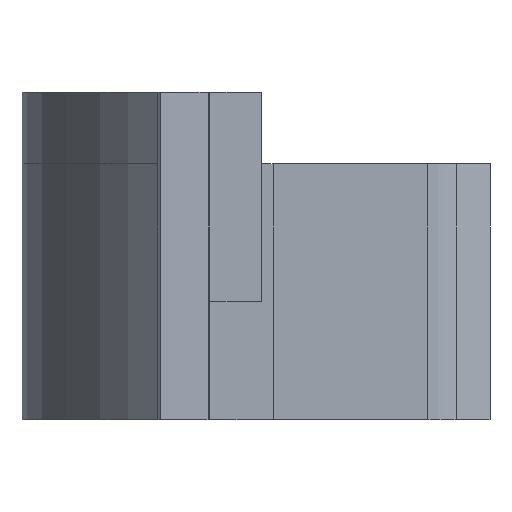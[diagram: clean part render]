
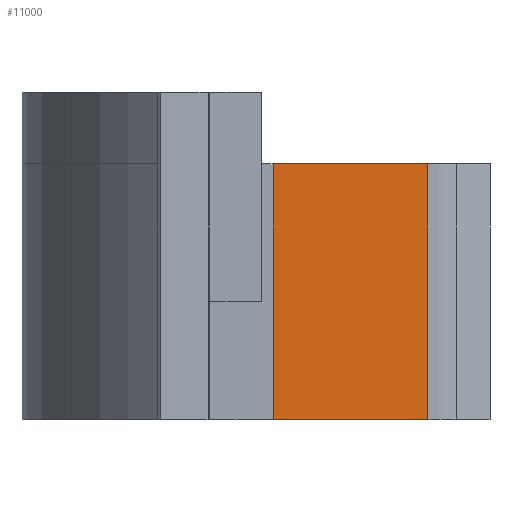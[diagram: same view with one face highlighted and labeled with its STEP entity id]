
A CAD part, left-side view. The second image highlights one B-rep face of the part: STEP entity #11000.
In plain terms, the highlighted free-form (B-spline) face has degree [1, 1] with [2, 2] control points.
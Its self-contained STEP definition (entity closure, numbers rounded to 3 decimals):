
#10410 = CARTESIAN_POINT ('', (40.274, 8.639, 77.175));
#10420 = VERTEX_POINT ('', #10410);
#10500 = CARTESIAN_POINT ('', (40.274, 8.639, 113.));
#10510 = VERTEX_POINT ('', #10500);
#10580 = CARTESIAN_POINT ('', (40.274, 8.639, 77.175));
#10590 = CARTESIAN_POINT ('', (40.274, 8.639, 113.));
#10600 = B_SPLINE_CURVE_WITH_KNOTS ('', 1, (#10580, #10590), .UNSPECIFIED., .F., .U., (2, 2), (0., 1.), .UNSPECIFIED.);
#10610 = EDGE_CURVE ('', #10420, #10510, #10600, .T.);
#10730 = CARTESIAN_POINT ('', (40.274, 30.317, 77.175));
#10740 = VERTEX_POINT ('', #10730);
#10750 = CARTESIAN_POINT ('', (40.274, 30.317, 77.175));
#10760 = CARTESIAN_POINT ('', (40.274, 8.639, 77.175));
#10770 = B_SPLINE_CURVE_WITH_KNOTS ('', 1, (#10750, #10760), .UNSPECIFIED., .F., .U., (2, 2), (156.456, 157.456), .UNSPECIFIED.);
#10780 = EDGE_CURVE ('', #10740, #10420, #10770, .T.);
#10790 = ORIENTED_EDGE ('', *, *, #10780, .T.);
#10800 = ORIENTED_EDGE ('', *, *, #10610, .T.);
#10810 = CARTESIAN_POINT ('', (40.274, 30.317, 113.));
#10820 = VERTEX_POINT ('', #10810);
#10830 = CARTESIAN_POINT ('', (40.274, 30.317, 113.));
#10840 = CARTESIAN_POINT ('', (40.274, 8.639, 113.));
#10850 = B_SPLINE_CURVE_WITH_KNOTS ('', 1, (#10830, #10840), .UNSPECIFIED., .F., .U., (2, 2), (156.456, 157.456), .UNSPECIFIED.);
#10860 = EDGE_CURVE ('', #10820, #10510, #10850, .T.);
#10870 = ORIENTED_EDGE ('', *, *, #10860, .F.);
#10880 = CARTESIAN_POINT ('', (40.274, 30.317, 77.175));
#10890 = CARTESIAN_POINT ('', (40.274, 30.317, 113.));
#10900 = B_SPLINE_CURVE_WITH_KNOTS ('', 1, (#10880, #10890), .UNSPECIFIED., .F., .U., (2, 2), (0., 1.), .UNSPECIFIED.);
#10910 = EDGE_CURVE ('', #10740, #10820, #10900, .T.);
#10920 = ORIENTED_EDGE ('', *, *, #10910, .F.);
#10930 = EDGE_LOOP ('', (#10790, #10800, #10870, #10920));
#10940 = FACE_OUTER_BOUND ('', #10930, .T.);
#10950 = CARTESIAN_POINT ('', (40.274, 30.317, 77.175));
#10960 = CARTESIAN_POINT ('', (40.274, 30.317, 113.));
#10970 = CARTESIAN_POINT ('', (40.274, 8.639, 77.175));
#10980 = CARTESIAN_POINT ('', (40.274, 8.639, 113.));
#10990 = B_SPLINE_SURFACE_WITH_KNOTS ('', 1, 1, ((#10950, #10960), (#10970, #10980)), .UNSPECIFIED., .F., .F., .U., (2, 2), (2, 2), (156.456, 157.456), (0., 1.), .UNSPECIFIED.);
#11000 = ADVANCED_FACE ('', (#10940), #10990, .T.);
